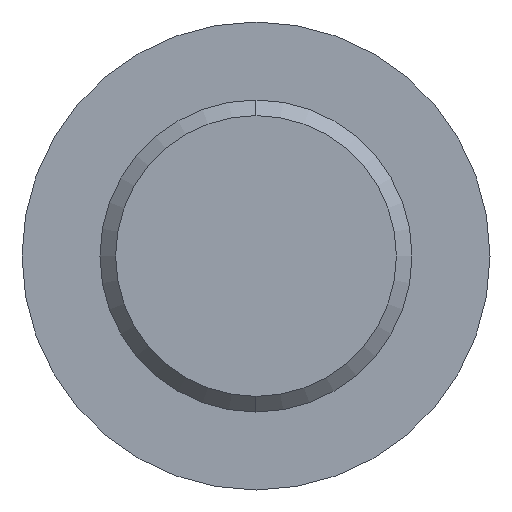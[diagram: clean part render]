
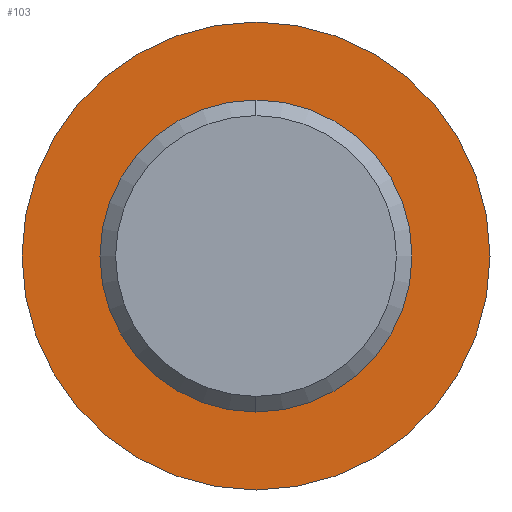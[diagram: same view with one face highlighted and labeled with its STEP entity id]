
A CAD part, left-side view. The second image highlights one B-rep face of the part: STEP entity #103.
In plain terms, the highlighted planar face has unit normal (-1, 0, 0).
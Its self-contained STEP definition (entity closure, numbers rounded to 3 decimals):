
#39 = EDGE_CURVE ( 'NONE', #152, #57, #187, .T. ) ;
#57 = VERTEX_POINT ( 'NONE', #385 ) ;
#67 = EDGE_LOOP ( 'NONE', ( #86, #69 ) ) ;
#68 = ORIENTED_EDGE ( 'NONE', *, *, #100, .T. ) ;
#69 = ORIENTED_EDGE ( 'NONE', *, *, #39, .F. ) ;
#76 = ORIENTED_EDGE ( 'NONE', *, *, #160, .T. ) ;
#86 = ORIENTED_EDGE ( 'NONE', *, *, #122, .F. ) ;
#100 = EDGE_CURVE ( 'NONE', #161, #162, #322, .T. ) ;
#102 = EDGE_LOOP ( 'NONE', ( #76, #68 ) ) ;
#103 = ADVANCED_FACE ( 'NONE', ( #403, #323 ), #327, .T. ) ;
#122 = EDGE_CURVE ( 'NONE', #57, #152, #236, .T. ) ;
#152 = VERTEX_POINT ( 'NONE', #305 ) ;
#160 = EDGE_CURVE ( 'NONE', #162, #161, #475, .T. ) ;
#161 = VERTEX_POINT ( 'NONE', #415 ) ;
#162 = VERTEX_POINT ( 'NONE', #413 ) ;
#169 = DIRECTION ( 'NONE',  ( 0., 0., -1. ) ) ;
#170 = DIRECTION ( 'NONE',  ( 1., 0., 0. ) ) ;
#171 = CARTESIAN_POINT ( 'NONE',  ( 26., 0., 0. ) ) ;
#172 = AXIS2_PLACEMENT_3D ( 'NONE', #171, #170, #169 ) ;
#187 = CIRCLE ( 'NONE', #172, 15. ) ;
#236 = CIRCLE ( 'NONE', #371, 15. ) ;
#246 = CARTESIAN_POINT ( 'NONE',  ( 26., 0., 0. ) ) ;
#257 = DIRECTION ( 'NONE',  ( 0., 0., 1. ) ) ;
#258 = DIRECTION ( 'NONE',  ( -1., 0., 0. ) ) ;
#263 = AXIS2_PLACEMENT_3D ( 'NONE', #265, #258, #257 ) ;
#264 = DIRECTION ( 'NONE',  ( 0., 0., -1. ) ) ;
#265 = CARTESIAN_POINT ( 'NONE',  ( 26., 15., 0. ) ) ;
#271 = AXIS2_PLACEMENT_3D ( 'NONE', #329, #334, #264 ) ;
#305 = CARTESIAN_POINT ( 'NONE',  ( 26., 0., 15. ) ) ;
#322 = CIRCLE ( 'NONE', #271, 10. ) ;
#323 = FACE_OUTER_BOUND ( 'NONE', #67, .T. ) ;
#327 = PLANE ( 'NONE',  #263 ) ;
#329 = CARTESIAN_POINT ( 'NONE',  ( 26., 0., 0. ) ) ;
#334 = DIRECTION ( 'NONE',  ( 1., 0., 0. ) ) ;
#369 = DIRECTION ( 'NONE',  ( 0., 0., -1. ) ) ;
#370 = DIRECTION ( 'NONE',  ( 1., 0., 0. ) ) ;
#371 = AXIS2_PLACEMENT_3D ( 'NONE', #246, #370, #369 ) ;
#385 = CARTESIAN_POINT ( 'NONE',  ( 26., 0., -15. ) ) ;
#403 = FACE_BOUND ( 'NONE', #102, .T. ) ;
#412 = CARTESIAN_POINT ( 'NONE',  ( 26., 0., 0. ) ) ;
#413 = CARTESIAN_POINT ( 'NONE',  ( 26., 0., -10. ) ) ;
#415 = CARTESIAN_POINT ( 'NONE',  ( 26., 0., 10. ) ) ;
#416 = DIRECTION ( 'NONE',  ( 0., 0., -1. ) ) ;
#417 = DIRECTION ( 'NONE',  ( 1., 0., 0. ) ) ;
#423 = AXIS2_PLACEMENT_3D ( 'NONE', #412, #417, #416 ) ;
#475 = CIRCLE ( 'NONE', #423, 10. ) ;
